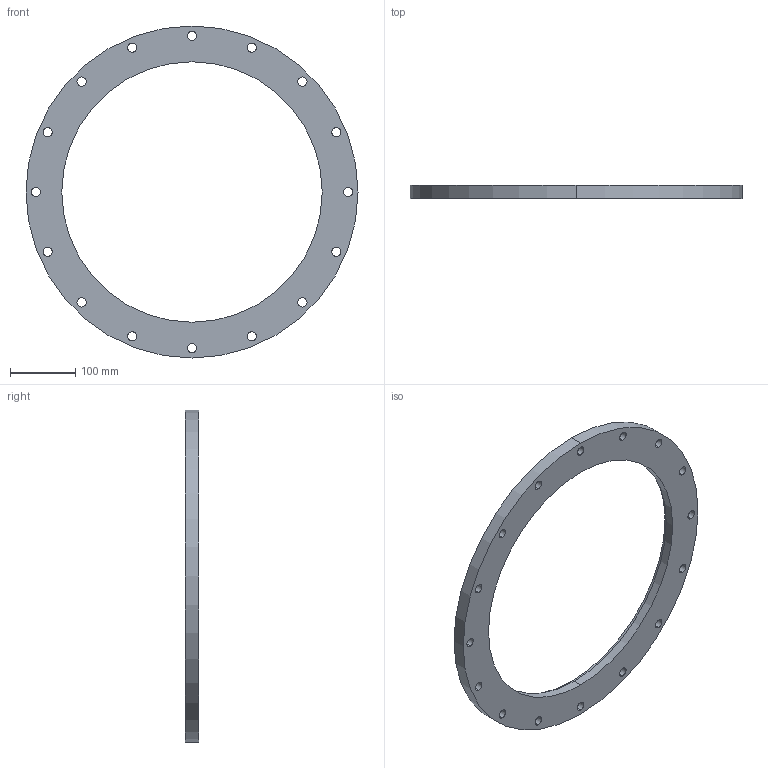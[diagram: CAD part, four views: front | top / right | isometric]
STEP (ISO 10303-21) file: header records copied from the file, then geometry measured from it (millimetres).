
FILE_DESCRIPTION (( 'STEP AP214' ), '1' );
FILE_NAME ('W5KL400.STEP', '2019-04-01T14:05:49', ( '' ), ( '' ), 'SwSTEP 2.0', 'SolidWorks 2018', '' );
FILE_SCHEMA (( 'AUTOMOTIVE_DESIGN' ));
Length unit declared in the file: millimetre
Products named in the file (1): W5KL400
Bounding box: 510 x 20 x 510 mm (x, y, z)
Volume: 1495606.9 mm3; surface area: 223572.7 mm2
Topology: 1 solids, 1 shells, 41 faces, 114 edges, 76 vertices
Faces by surface type: cylinder 38, plane 3
Entity records: 1466 total; most frequent: DIRECTION 274, CARTESIAN_POINT 232, ORIENTED_EDGE 228, AXIS2_PLACEMENT_3D 118, EDGE_CURVE 114, EDGE_LOOP 76, VERTEX_POINT 76, CIRCLE 76
